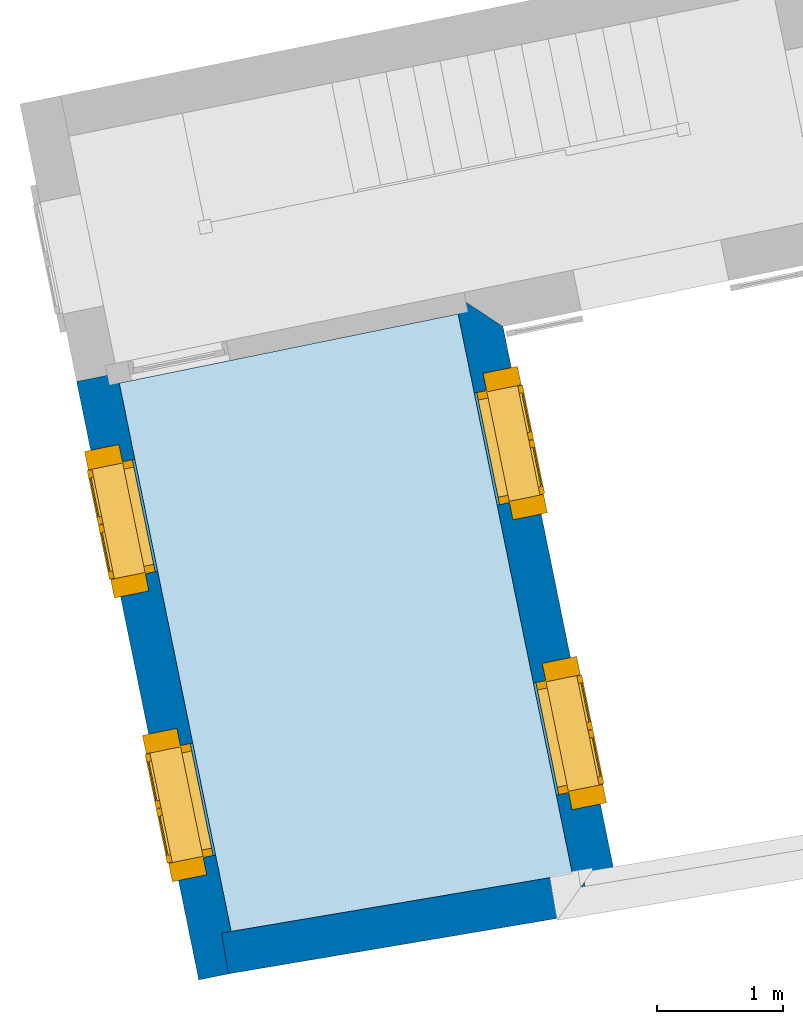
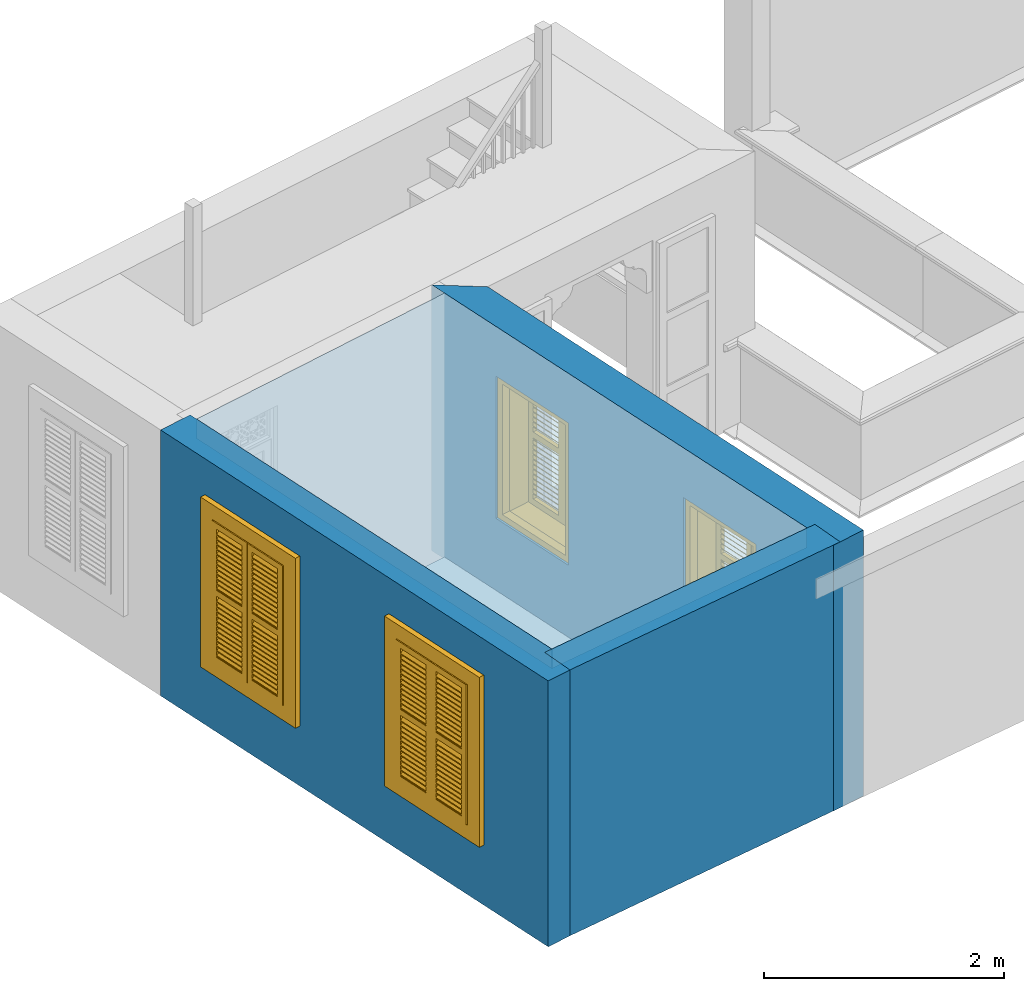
# One storey, part 1 of 7: 4 windows, 3 walls, 2 slabs, 4 openings.
"""IFC4 building model written with IfcOpenShell, lengths in metres."""

from ifc_helpers import new_model, si_unit, frame, origin, origin_with_axes, place, context, subcontext, project, spatial, polyline, outline, extrude, faceted_brep, source, transform, mapped, material, layer, layer_set, layer_usage, type_object, type_shapes, element, fill, save


model = new_model("IFC4")

# Units and contexts
model_context = context("Model", 3, world=origin_with_axes())
body_context = subcontext(model_context, "Body", "Model", "MODEL_VIEW")
ifc_project = project(units=[si_unit("PLANEANGLEUNIT", "RADIAN"), si_unit("MASSUNIT", "GRAM", prefix="KILO"), si_unit("FORCEUNIT", "NEWTON", prefix="KILO"), si_unit("LENGTHUNIT", "METRE"), si_unit("AREAUNIT", "SQUARE_METRE"), si_unit("VOLUMEUNIT", "CUBIC_METRE")], contexts=[model_context, model_context])

# Site, building, storey
site_placement = place(None, origin_with_axes())
site = spatial("IfcSite", under=ifc_project, at=site_placement, Name="Site plot-7", CompositionType="ELEMENT")
building_placement = place(None, origin_with_axes())
building = spatial("IfcBuilding", under=site, at=building_placement, Name="Building plot-7", CompositionType="ELEMENT")
storey_placement = place(None, frame((0.0, 0.0, 3.0), z_axis=(0.0, 0.0, 1.0), x_axis=(1.0, 0.0, 0.0)))
storey = spatial("IfcBuildingStorey", under=building, at=storey_placement, Name="plot-7 1", CompositionType="ELEMENT", Elevation=3.0)

# Slabs
slab_1_placement = place(storey_placement, frame((-9.15748605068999, 9.49645441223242, 2.5)))
element("IfcSlab", 1, at=slab_1_placement, inside=storey, Name="My Slab", ObjectType="Slab", PredefinedType="FLOOR", context=body_context, shape_type="SweptSolid", body=[
    extrude(outline(polyline([(0.0, 0.0), (-2.69864684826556, -0.550696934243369), (-1.80760958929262, -4.9171546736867), (0.90989582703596, -4.45887266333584), (0.0, 0.0)])), origin_with_axes(), (0.0, 0.0, 1.0), 0.2),
])
slab_2_placement = place(storey_placement, frame((-9.15748605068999, 9.49645441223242, 0.0)))
element("IfcSlab", 2, at=slab_2_placement, inside=storey, Name="My Slab", ObjectType="Slab", PredefinedType="FLOOR", context=body_context, shape_type="SweptSolid", body=[
    extrude(outline(polyline([(0.0, 0.0), (-2.69864684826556, -0.550696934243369), (-1.80760958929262, -4.9171546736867), (0.90989582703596, -4.45887266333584), (0.0, 0.0)])), origin_with_axes(), (0.0, 0.0, 1.0), 0.02),
])

# Wall, openings, windows
ifc_material_1 = material(Name="Masonry")
ifc_layer_1 = layer(ifc_material_1, 0.33, ventilated=False)
ifc_layer_set_1 = layer_set([ifc_layer_1], Name="exterior_0.08_0.25")
ifc_layer_usage_1 = layer_usage(ifc_layer_set_1, "AXIS2", "POSITIVE", -0.25)
wall_type_1 = type_object("IfcWallType", Name="exterior_0.08_0.25", PredefinedType="SOLIDWALL", material=ifc_layer_set_1)
wall_1_placement = place(storey_placement, frame((-8.15265300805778, 4.97246241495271, 0.0), z_axis=(0.0, 0.0, 1.0), x_axis=(-0.199943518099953, 0.979807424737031, 0.0)))
wall_1 = element("IfcWall", 3, at=wall_1_placement, inside=storey, type_object=wall_type_1, material=ifc_layer_usage_1, Name="exterior", context=body_context, shape_type="SweptSolid", body=[
    extrude(outline(polyline([(-0.25, 0.0800000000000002), (-0.25, -0.25), (4.46355080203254, -0.250000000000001), (4.79355080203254, 0.0799999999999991), (-0.25, 0.0800000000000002)])), origin_with_axes(), (0.0, 0.0, 1.0), 2.7),
])
opening_1_placement = place(wall_1_placement, frame((0.723387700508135, 0.0, 0.75)))
opening_1 = element("IfcOpeningElement", 4, at=opening_1_placement, cuts=wall_1, Name="My Opening", ObjectType="Opening", context=body_context, shape_type="SweptSolid", body=[
    extrude(outline(polyline([(0.0, -0.269999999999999), (0.91, -0.27), (0.910000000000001, 1.1), (5.55111512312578e-16, 1.1), (0.0, -0.269999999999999)])), origin_with_axes(), (0.0, 0.0, 1.0), 1.445),
])
opening_2_placement = place(wall_1_placement, frame((3.0801631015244, 0.0, 0.75)))
opening_2 = element("IfcOpeningElement", 5, at=opening_2_placement, cuts=wall_1, Name="My Opening", ObjectType="Opening", context=body_context, shape_type="SweptSolid", body=[
    extrude(outline(polyline([(0.0, -0.269999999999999), (0.910000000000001, -0.27), (0.910000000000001, 1.1), (1.33226762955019e-15, 1.1), (0.0, -0.269999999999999)])), origin_with_axes(), (0.0, 0.0, 1.0), 1.445),
])
window_type = type_object("IfcWindowType", Name="shuttered_shorter", PartitioningType="DOUBLE_PANEL_HORIZONTAL", PredefinedType="NOTDEFINED")
shared_shape = source(origin(), body_context, "Body", "Brep", [
    faceted_brep([(0.393, 0.0, 0.622), (0.074, 0.0, 0.622), (0.074, 0.0, 0.632), (0.393, 0.0, 0.632), (0.074, -0.04, 0.592), (0.393, -0.04, 0.592), (0.393, -0.04, 0.582), (0.074, -0.04, 0.582), (0.517, 0.0, 0.682), (0.836, 0.0, 0.682), (0.836, 0.0, 0.672), (0.517, 0.0, 0.672), (0.517, -0.04, 0.642), (0.836, -0.04, 0.642), (0.836, -0.04, 0.632), (0.517, -0.04, 0.632), (0.517, 0.0, 0.632), (0.836, 0.0, 0.632), (0.836, 0.0, 0.622), (0.517, 0.0, 0.622), (0.517, -0.04, 0.592), (0.836, -0.04, 0.592), (0.836, -0.04, 0.582), (0.517, -0.04, 0.582), (0.517, 0.0, 0.232), (0.836, 0.0, 0.232), (0.836, 0.0, 0.222), (0.517, 0.0, 0.222), (0.517, -0.04, 0.192), (0.836, -0.04, 0.192), (0.836, -0.04, 0.182), (0.517, -0.04, 0.182), (0.517, 0.0, 0.532), (0.836, 0.0, 0.532), (0.836, 0.0, 0.522), (0.517, 0.0, 0.522), (0.517, -0.04, 0.492), (0.836, -0.04, 0.492), (0.836, -0.04, 0.482), (0.517, -0.04, 0.482), (0.517, 0.0, 0.482), (0.836, 0.0, 0.482), (0.836, 0.0, 0.472), (0.517, 0.0, 0.472), (0.517, -0.04, 0.442), (0.836, -0.04, 0.442), (0.836, -0.04, 0.432), (0.517, -0.04, 0.432), (0.517, 0.0, 0.582), (0.836, 0.0, 0.582), (0.836, 0.0, 0.572), (0.517, 0.0, 0.572), (0.517, -0.04, 0.542), (0.836, -0.04, 0.542), (0.836, -0.04, 0.532), (0.517, -0.04, 0.532), (0.517, 0.0, 0.182), (0.836, 0.0, 0.182), (0.836, 0.0, 0.172), (0.517, 0.0, 0.172), (0.517, -0.04, 0.142), (0.836, -0.04, 0.142), (0.836, -0.04, 0.132), (0.517, -0.04, 0.132), (0.517, 0.0, 0.382), (0.836, 0.0, 0.382), (0.836, 0.0, 0.372), (0.517, 0.0, 0.372), (0.517, -0.04, 0.342), (0.836, -0.04, 0.342), (0.836, -0.04, 0.332), (0.517, -0.04, 0.332), (0.517, 0.0, 0.432), (0.836, 0.0, 0.432), (0.836, 0.0, 0.422), (0.517, 0.0, 0.422), (0.517, -0.04, 0.392), (0.836, -0.04, 0.392), (0.836, -0.04, 0.382), (0.517, -0.04, 0.382), (0.517, 0.0, 0.132), (0.836, 0.0, 0.132), (0.836, 0.0, 0.122), (0.517, 0.0, 0.122), (0.517, -0.04, 0.092), (0.836, -0.04, 0.092), (0.836, -0.04, 0.082), (0.517, -0.04, 0.082), (0.517, 0.0, 0.282), (0.836, 0.0, 0.282), (0.836, 0.0, 0.272), (0.517, 0.0, 0.272), (0.517, -0.04, 0.242), (0.836, -0.04, 0.242), (0.836, -0.04, 0.232), (0.517, -0.04, 0.232), (0.517, 0.0, 0.332), (0.836, 0.0, 0.332), (0.836, 0.0, 0.322), (0.517, 0.0, 0.322), (0.517, -0.04, 0.292), (0.836, -0.04, 0.292), (0.836, -0.04, 0.282), (0.517, -0.04, 0.282), (0.517, 0.0, 1.362667), (0.836, 0.0, 1.362667), (0.836, 0.0, 1.352667), (0.517, 0.0, 1.352667), (0.517, -0.04, 1.322667), (0.836, -0.04, 1.322667), (0.836, -0.04, 1.312667), (0.517, -0.04, 1.312667), (0.517, 0.0, 1.312667), (0.836, 0.0, 1.312667), (0.836, 0.0, 1.302667), (0.517, 0.0, 1.302667), (0.517, -0.04, 1.272667), (0.836, -0.04, 1.272667), (0.836, -0.04, 1.262667), (0.517, -0.04, 1.262667), (0.517, 0.0, 0.912667), (0.836, 0.0, 0.912667), (0.836, 0.0, 0.902667), (0.517, 0.0, 0.902667), (0.517, -0.04, 0.872667), (0.836, -0.04, 0.872667), (0.836, -0.04, 0.862667), (0.517, -0.04, 0.862667), (0.517, 0.0, 1.212667), (0.836, 0.0, 1.212667), (0.836, 0.0, 1.202667), (0.517, 0.0, 1.202667), (0.517, -0.04, 1.172667), (0.836, -0.04, 1.172667), (0.836, -0.04, 1.162667), (0.517, -0.04, 1.162667), (0.517, 0.0, 1.162667), (0.836, 0.0, 1.162667), (0.836, 0.0, 1.152667), (0.517, 0.0, 1.152667), (0.517, -0.04, 1.122667), (0.836, -0.04, 1.122667), (0.836, -0.04, 1.112667), (0.517, -0.04, 1.112667), (0.517, 0.0, 1.262667), (0.836, 0.0, 1.262667), (0.836, 0.0, 1.252667), (0.517, 0.0, 1.252667), (0.517, -0.04, 1.222667), (0.836, -0.04, 1.222667), (0.836, -0.04, 1.212667), (0.517, -0.04, 1.212667), (0.517, 0.0, 0.862667), (0.836, 0.0, 0.862667), (0.836, 0.0, 0.852667), (0.517, 0.0, 0.852667), (0.517, -0.04, 0.822667), (0.836, -0.04, 0.822667), (0.836, -0.04, 0.812667), (0.517, -0.04, 0.812667), (0.517, 0.0, 1.062667), (0.836, 0.0, 1.062667), (0.836, 0.0, 1.052667), (0.517, 0.0, 1.052667), (0.517, -0.04, 1.022667), (0.836, -0.04, 1.022667), (0.836, -0.04, 1.012667), (0.517, -0.04, 1.012667), (0.517, 0.0, 1.112667), (0.836, 0.0, 1.112667), (0.836, 0.0, 1.102667), (0.517, 0.0, 1.102667), (0.517, -0.04, 1.072667), (0.836, -0.04, 1.072667), (0.836, -0.04, 1.062667), (0.517, -0.04, 1.062667), (0.517, 0.0, 0.812667), (0.836, 0.0, 0.812667), (0.836, 0.0, 0.802667), (0.517, 0.0, 0.802667), (0.517, -0.04, 0.772667), (0.836, -0.04, 0.772667), (0.836, -0.04, 0.762667), (0.517, -0.04, 0.762667), (0.517, 0.0, 0.962667), (0.836, 0.0, 0.962667), (0.836, 0.0, 0.952667), (0.517, 0.0, 0.952667), (0.517, -0.04, 0.922667), (0.836, -0.04, 0.922667), (0.836, -0.04, 0.912667), (0.517, -0.04, 0.912667), (0.517, 0.0, 1.012667), (0.836, 0.0, 1.012667), (0.836, 0.0, 1.002667), (0.517, 0.0, 1.002667), (0.517, -0.04, 0.972667), (0.836, -0.04, 0.972667), (0.836, -0.04, 0.962667), (0.517, -0.04, 0.962667), (0.074, 0.0, 0.682), (0.393, 0.0, 0.682), (0.393, 0.0, 0.672), (0.074, 0.0, 0.672), (0.074, -0.04, 0.642), (0.393, -0.04, 0.642), (0.393, -0.04, 0.632), (0.074, -0.04, 0.632), (0.074, 0.0, 0.232), (0.393, 0.0, 0.232), (0.393, 0.0, 0.222), (0.074, 0.0, 0.222), (0.074, -0.04, 0.192), (0.393, -0.04, 0.192), (0.393, -0.04, 0.182), (0.074, -0.04, 0.182), (0.074, 0.0, 0.532), (0.393, 0.0, 0.532), (0.393, 0.0, 0.522), (0.074, 0.0, 0.522), (0.074, -0.04, 0.492), (0.393, -0.04, 0.492), (0.393, -0.04, 0.482), (0.074, -0.04, 0.482), (0.074, 0.0, 0.482), (0.393, 0.0, 0.482), (0.393, 0.0, 0.472), (0.074, 0.0, 0.472), (0.074, -0.04, 0.442), (0.393, -0.04, 0.442), (0.393, -0.04, 0.432), (0.074, -0.04, 0.432), (0.074, 0.0, 0.582), (0.393, 0.0, 0.582), (0.393, 0.0, 0.572), (0.074, 0.0, 0.572), (0.074, -0.04, 0.542), (0.393, -0.04, 0.542), (0.393, -0.04, 0.532), (0.074, -0.04, 0.532), (0.074, 0.0, 0.182), (0.393, 0.0, 0.182), (0.393, 0.0, 0.172), (0.074, 0.0, 0.172), (0.074, -0.04, 0.142), (0.393, -0.04, 0.142), (0.393, -0.04, 0.132), (0.074, -0.04, 0.132), (0.074, 0.0, 0.382), (0.393, 0.0, 0.382), (0.393, 0.0, 0.372), (0.074, 0.0, 0.372), (0.074, -0.04, 0.342), (0.393, -0.04, 0.342), (0.393, -0.04, 0.332), (0.074, -0.04, 0.332), (0.074, 0.0, 0.432), (0.393, 0.0, 0.432), (0.393, 0.0, 0.422), (0.074, 0.0, 0.422), (0.074, -0.04, 0.392), (0.393, -0.04, 0.392), (0.393, -0.04, 0.382), (0.074, -0.04, 0.382), (0.074, 0.0, 0.132), (0.393, 0.0, 0.132), (0.393, 0.0, 0.122), (0.074, 0.0, 0.122), (0.074, -0.04, 0.092), (0.393, -0.04, 0.092), (0.393, -0.04, 0.082), (0.074, -0.04, 0.082), (0.074, 0.0, 0.282), (0.393, 0.0, 0.282), (0.393, 0.0, 0.272), (0.074, 0.0, 0.272), (0.074, -0.04, 0.242), (0.393, -0.04, 0.242), (0.393, -0.04, 0.232), (0.074, -0.04, 0.232), (0.074, 0.0, 0.332), (0.393, 0.0, 0.332), (0.393, 0.0, 0.322), (0.074, 0.0, 0.322), (0.074, -0.04, 0.292), (0.393, -0.04, 0.292), (0.393, -0.04, 0.282), (0.074, -0.04, 0.282), (0.074, 0.0, 1.362667), (0.393, 0.0, 1.362667), (0.393, 0.0, 1.352667), (0.074, 0.0, 1.352667), (0.074, -0.04, 1.322667), (0.393, -0.04, 1.322667), (0.393, -0.04, 1.312667), (0.074, -0.04, 1.312667), (0.074, 0.0, 1.312667), (0.393, 0.0, 1.312667), (0.393, 0.0, 1.302667), (0.074, 0.0, 1.302667), (0.074, -0.04, 1.272667), (0.393, -0.04, 1.272667), (0.393, -0.04, 1.262667), (0.074, -0.04, 1.262667), (0.074, 0.0, 0.912667), (0.393, 0.0, 0.912667), (0.393, 0.0, 0.902667), (0.074, 0.0, 0.902667), (0.074, -0.04, 0.872667), (0.393, -0.04, 0.872667), (0.393, -0.04, 0.862667), (0.074, -0.04, 0.862667), (0.074, 0.0, 1.212667), (0.393, 0.0, 1.212667), (0.393, 0.0, 1.202667), (0.074, 0.0, 1.202667), (0.074, -0.04, 1.172667), (0.393, -0.04, 1.172667), (0.393, -0.04, 1.162667), (0.074, -0.04, 1.162667), (0.074, 0.0, 1.162667), (0.393, 0.0, 1.162667), (0.393, 0.0, 1.152667), (0.074, 0.0, 1.152667), (0.074, -0.04, 1.122667), (0.393, -0.04, 1.122667), (0.393, -0.04, 1.112667), (0.074, -0.04, 1.112667), (0.074, 0.0, 1.262667), (0.393, 0.0, 1.262667), (0.393, 0.0, 1.252667), (0.074, 0.0, 1.252667), (0.074, -0.04, 1.222667), (0.393, -0.04, 1.222667), (0.393, -0.04, 1.212667), (0.074, -0.04, 1.212667), (0.074, 0.0, 0.862667), (0.393, 0.0, 0.862667), (0.393, 0.0, 0.852667), (0.074, 0.0, 0.852667), (0.074, -0.04, 0.822667), (0.393, -0.04, 0.822667), (0.393, -0.04, 0.812667), (0.074, -0.04, 0.812667), (0.074, 0.0, 1.062667), (0.393, 0.0, 1.062667), (0.393, 0.0, 1.052667), (0.074, 0.0, 1.052667), (0.074, -0.04, 1.022667), (0.393, -0.04, 1.022667), (0.393, -0.04, 1.012667), (0.074, -0.04, 1.012667), (0.074, 0.0, 1.112667), (0.393, 0.0, 1.112667), (0.393, 0.0, 1.102667), (0.074, 0.0, 1.102667), (0.074, -0.04, 1.072667), (0.393, -0.04, 1.072667), (0.393, -0.04, 1.062667), (0.074, -0.04, 1.062667), (0.074, 0.0, 0.812667), (0.393, 0.0, 0.812667), (0.393, 0.0, 0.802667), (0.074, 0.0, 0.802667), (0.074, -0.04, 0.772667), (0.393, -0.04, 0.772667), (0.393, -0.04, 0.762667), (0.074, -0.04, 0.762667), (0.074, 0.0, 0.962667), (0.393, 0.0, 0.962667), (0.393, 0.0, 0.952667), (0.074, 0.0, 0.952667), (0.074, -0.04, 0.922667), (0.393, -0.04, 0.922667), (0.393, -0.04, 0.912667), (0.074, -0.04, 0.912667), (0.074, 0.0, 1.012667), (0.393, 0.0, 1.012667), (0.393, 0.0, 1.002667), (0.074, 0.0, 1.002667), (0.074, -0.04, 0.972667), (0.393, -0.04, 0.972667), (0.393, -0.04, 0.962667), (0.074, -0.04, 0.962667), (0.517, -0.04, 0.072), (0.457, -0.04, 0.012), (0.896, -0.04, 0.012), (0.836, -0.04, 0.072), (0.457, -0.04, 0.692667), (0.517, -0.04, 0.692667), (0.457, 0.0, 0.012), (0.896, 0.0, 0.012), (0.836, -0.04, 0.692667), (0.896, -0.04, 0.692667), (0.836, 0.0, 0.072), (0.517, 0.0, 0.072), (0.457, 0.0, 0.692667), (0.517, 0.0, 0.692667), (0.517, -0.04, 0.752666), (0.457, -0.04, 0.752666), (0.896, 0.0, 0.692667), (0.836, 0.0, 0.692667), (0.836, -0.04, 0.752666), (0.896, -0.04, 0.752666), (0.457, 0.0, 0.752666), (0.457, -0.04, 1.433333), (0.517, -0.04, 1.373333), (0.896, 0.0, 0.752666), (0.836, -0.04, 1.373333), (0.896, -0.04, 1.433333), (0.457, 0.0, 1.433333), (0.517, 0.0, 0.752666), (0.836, 0.0, 0.752666), (0.517, 0.0, 1.373333), (0.896, 0.0, 1.433333), (0.836, 0.0, 1.373333), (0.074, -0.04, 0.072), (0.014, -0.04, 0.012), (0.453, -0.04, 0.012), (0.393, -0.04, 0.072), (0.014, -0.04, 0.692667), (0.074, -0.04, 0.692667), (0.014, 0.0, 0.012), (0.453, 0.0, 0.012), (0.393, -0.04, 0.692667), (0.453, -0.04, 0.692667), (0.393, 0.0, 0.072), (0.074, 0.0, 0.072), (0.014, 0.0, 0.692667), (0.074, 0.0, 0.692667), (0.074, -0.04, 0.752666), (0.014, -0.04, 0.752666), (0.453, 0.0, 0.692667), (0.393, 0.0, 0.692667), (0.393, -0.04, 0.752666), (0.453, -0.04, 0.752666), (0.014, 0.0, 0.752666), (0.014, -0.04, 1.433333), (0.074, -0.04, 1.373333), (0.453, 0.0, 0.752666), (0.393, -0.04, 1.373333), (0.453, -0.04, 1.433333), (0.014, 0.0, 1.433333), (0.074, 0.0, 0.752666), (0.393, 0.0, 0.752666), (0.074, 0.0, 1.373333), (0.453, 0.0, 1.433333), (0.393, 0.0, 1.373333), (0.0, 0.33, 1.445), (0.91, 0.33, 1.445), (0.85, 0.33, 1.385), (0.06, 0.33, 1.385), (0.91, 0.25, 1.445), (0.0, 0.25, 1.445), (0.91, 0.25, 1.445), (0.85, 0.33, 0.06), (0.91, 0.33, 0.0), (0.85, 0.25, 1.385), (0.06, 0.25, 1.385), (0.0, 0.33, 0.0), (0.06, 0.33, 0.06), (0.0, 0.25, 0.0), (0.91, 0.25, 0.0), (0.85, 0.25, 0.06), (0.06, 0.25, 0.06), (1.05, 0.25, 1.585), (-0.14, 0.25, 1.585), (-0.14, -0.03, 1.585), (1.05, -0.03, 1.585), (0.9, -0.03, 1.435), (0.01, -0.03, 1.435), (0.01, 0.25, 1.435), (0.9, 0.25, 1.435), (0.9, 0.25, 0.01), (0.9, -0.03, 0.01), (1.05, -0.03, -0.14), (1.05, 0.25, -0.14), (0.01, -0.03, 0.01), (0.01, 0.25, 0.01), (-0.14, -0.03, -0.14), (-0.14, 0.25, -0.14)], [[[0, 1, 2, 3]], [[4, 5, 3, 2]], [[5, 6, 0, 3]], [[1, 0, 6, 7]], [[2, 1, 7, 4]], [[5, 4, 7, 6]], [[8, 9, 10, 11]], [[12, 13, 9, 8]], [[13, 14, 10, 9]], [[14, 15, 11, 10]], [[15, 12, 8, 11]], [[13, 12, 15, 14]], [[16, 17, 18, 19]], [[20, 21, 17, 16]], [[21, 22, 18, 17]], [[22, 23, 19, 18]], [[23, 20, 16, 19]], [[21, 20, 23, 22]], [[24, 25, 26, 27]], [[28, 29, 25, 24]], [[29, 30, 26, 25]], [[30, 31, 27, 26]], [[31, 28, 24, 27]], [[29, 28, 31, 30]], [[32, 33, 34, 35]], [[36, 37, 33, 32]], [[37, 38, 34, 33]], [[38, 39, 35, 34]], [[39, 36, 32, 35]], [[37, 36, 39, 38]], [[40, 41, 42, 43]], [[44, 45, 41, 40]], [[45, 46, 42, 41]], [[46, 47, 43, 42]], [[47, 44, 40, 43]], [[45, 44, 47, 46]], [[48, 49, 50, 51]], [[52, 53, 49, 48]], [[53, 54, 50, 49]], [[54, 55, 51, 50]], [[55, 52, 48, 51]], [[53, 52, 55, 54]], [[56, 57, 58, 59]], [[60, 61, 57, 56]], [[61, 62, 58, 57]], [[62, 63, 59, 58]], [[63, 60, 56, 59]], [[61, 60, 63, 62]], [[64, 65, 66, 67]], [[68, 69, 65, 64]], [[69, 70, 66, 65]], [[70, 71, 67, 66]], [[71, 68, 64, 67]], [[69, 68, 71, 70]], [[72, 73, 74, 75]], [[76, 77, 73, 72]], [[77, 78, 74, 73]], [[78, 79, 75, 74]], [[79, 76, 72, 75]], [[77, 76, 79, 78]], [[80, 81, 82, 83]], [[84, 85, 81, 80]], [[85, 86, 82, 81]], [[86, 87, 83, 82]], [[87, 84, 80, 83]], [[85, 84, 87, 86]], [[88, 89, 90, 91]], [[92, 93, 89, 88]], [[93, 94, 90, 89]], [[94, 95, 91, 90]], [[95, 92, 88, 91]], [[93, 92, 95, 94]], [[96, 97, 98, 99]], [[100, 101, 97, 96]], [[101, 102, 98, 97]], [[102, 103, 99, 98]], [[103, 100, 96, 99]], [[101, 100, 103, 102]], [[104, 105, 106, 107]], [[108, 109, 105, 104]], [[109, 110, 106, 105]], [[110, 111, 107, 106]], [[111, 108, 104, 107]], [[109, 108, 111, 110]], [[112, 113, 114, 115]], [[116, 117, 113, 112]], [[117, 118, 114, 113]], [[118, 119, 115, 114]], [[119, 116, 112, 115]], [[117, 116, 119, 118]], [[120, 121, 122, 123]], [[124, 125, 121, 120]], [[125, 126, 122, 121]], [[126, 127, 123, 122]], [[127, 124, 120, 123]], [[125, 124, 127, 126]], [[128, 129, 130, 131]], [[132, 133, 129, 128]], [[133, 134, 130, 129]], [[134, 135, 131, 130]], [[135, 132, 128, 131]], [[133, 132, 135, 134]], [[136, 137, 138, 139]], [[140, 141, 137, 136]], [[141, 142, 138, 137]], [[142, 143, 139, 138]], [[139, 143, 140, 136]], [[141, 140, 143, 142]], [[144, 145, 146, 147]], [[148, 149, 145, 144]], [[149, 150, 146, 145]], [[150, 151, 147, 146]], [[151, 148, 144, 147]], [[149, 148, 151, 150]], [[152, 153, 154, 155]], [[156, 157, 153, 152]], [[157, 158, 154, 153]], [[158, 159, 155, 154]], [[159, 156, 152, 155]], [[157, 156, 159, 158]], [[160, 161, 162, 163]], [[164, 165, 161, 160]], [[165, 166, 162, 161]], [[166, 167, 163, 162]], [[167, 164, 160, 163]], [[165, 164, 167, 166]], [[168, 169, 170, 171]], [[172, 173, 169, 168]], [[173, 174, 170, 169]], [[174, 175, 171, 170]], [[175, 172, 168, 171]], [[173, 172, 175, 174]], [[176, 177, 178, 179]], [[180, 181, 177, 176]], [[181, 182, 178, 177]], [[182, 183, 179, 178]], [[183, 180, 176, 179]], [[181, 180, 183, 182]], [[184, 185, 186, 187]], [[188, 189, 185, 184]], [[189, 190, 186, 185]], [[190, 191, 187, 186]], [[191, 188, 184, 187]], [[189, 188, 191, 190]], [[192, 193, 194, 195]], [[196, 197, 193, 192]], [[197, 198, 194, 193]], [[198, 199, 195, 194]], [[199, 196, 192, 195]], [[197, 196, 199, 198]], [[200, 201, 202, 203]], [[204, 205, 201, 200]], [[205, 206, 202, 201]], [[206, 207, 203, 202]], [[207, 204, 200, 203]], [[205, 204, 207, 206]], [[208, 209, 210, 211]], [[212, 213, 209, 208]], [[213, 214, 210, 209]], [[214, 215, 211, 210]], [[215, 212, 208, 211]], [[213, 212, 215, 214]], [[216, 217, 218, 219]], [[220, 221, 217, 216]], [[221, 222, 218, 217]], [[222, 223, 219, 218]], [[223, 220, 216, 219]], [[221, 220, 223, 222]], [[224, 225, 226, 227]], [[228, 229, 225, 224]], [[229, 230, 226, 225]], [[230, 231, 227, 226]], [[231, 228, 224, 227]], [[229, 228, 231, 230]], [[232, 233, 234, 235]], [[236, 237, 233, 232]], [[237, 238, 234, 233]], [[238, 239, 235, 234]], [[239, 236, 232, 235]], [[237, 236, 239, 238]], [[240, 241, 242, 243]], [[244, 245, 241, 240]], [[245, 246, 242, 241]], [[246, 247, 243, 242]], [[247, 244, 240, 243]], [[245, 244, 247, 246]], [[248, 249, 250, 251]], [[252, 253, 249, 248]], [[253, 254, 250, 249]], [[254, 255, 251, 250]], [[255, 252, 248, 251]], [[253, 252, 255, 254]], [[256, 257, 258, 259]], [[260, 261, 257, 256]], [[261, 262, 258, 257]], [[262, 263, 259, 258]], [[263, 260, 256, 259]], [[261, 260, 263, 262]], [[264, 265, 266, 267]], [[268, 269, 265, 264]], [[269, 270, 266, 265]], [[270, 271, 267, 266]], [[271, 268, 264, 267]], [[269, 268, 271, 270]], [[272, 273, 274, 275]], [[276, 277, 273, 272]], [[277, 278, 274, 273]], [[278, 279, 275, 274]], [[279, 276, 272, 275]], [[277, 276, 279, 278]], [[280, 281, 282, 283]], [[284, 285, 281, 280]], [[285, 286, 282, 281]], [[286, 287, 283, 282]], [[287, 284, 280, 283]], [[285, 284, 287, 286]], [[288, 289, 290, 291]], [[292, 293, 289, 288]], [[293, 294, 290, 289]], [[294, 295, 291, 290]], [[295, 292, 288, 291]], [[293, 292, 295, 294]], [[296, 297, 298, 299]], [[300, 301, 297, 296]], [[301, 302, 298, 297]], [[302, 303, 299, 298]], [[303, 300, 296, 299]], [[301, 300, 303, 302]], [[304, 305, 306, 307]], [[308, 309, 305, 304]], [[309, 310, 306, 305]], [[310, 311, 307, 306]], [[311, 308, 304, 307]], [[309, 308, 311, 310]], [[312, 313, 314, 315]], [[316, 317, 313, 312]], [[317, 318, 314, 313]], [[318, 319, 315, 314]], [[319, 316, 312, 315]], [[317, 316, 319, 318]], [[320, 321, 322, 323]], [[324, 325, 321, 320]], [[325, 326, 322, 321]], [[326, 327, 323, 322]], [[327, 324, 320, 323]], [[325, 324, 327, 326]], [[328, 329, 330, 331]], [[332, 333, 329, 328]], [[333, 334, 330, 329]], [[334, 335, 331, 330]], [[335, 332, 328, 331]], [[333, 332, 335, 334]], [[336, 337, 338, 339]], [[340, 341, 337, 336]], [[341, 342, 338, 337]], [[342, 343, 339, 338]], [[343, 340, 336, 339]], [[341, 340, 343, 342]], [[344, 345, 346, 347]], [[348, 349, 345, 344]], [[349, 350, 346, 345]], [[350, 351, 347, 346]], [[351, 348, 344, 347]], [[349, 348, 351, 350]], [[352, 353, 354, 355]], [[356, 357, 353, 352]], [[357, 358, 354, 353]], [[358, 359, 355, 354]], [[359, 356, 352, 355]], [[357, 356, 359, 358]], [[360, 361, 362, 363]], [[364, 365, 361, 360]], [[365, 366, 362, 361]], [[366, 367, 363, 362]], [[367, 364, 360, 363]], [[365, 364, 367, 366]], [[368, 369, 370, 371]], [[372, 373, 369, 368]], [[373, 374, 370, 369]], [[374, 375, 371, 370]], [[375, 372, 368, 371]], [[373, 372, 375, 374]], [[376, 377, 378, 379]], [[380, 381, 377, 376]], [[381, 382, 378, 377]], [[382, 383, 379, 378]], [[383, 380, 376, 379]], [[381, 380, 383, 382]], [[384, 385, 386, 387]], [[388, 385, 384, 389]], [[390, 391, 386, 385]], [[392, 387, 386, 393]], [[384, 387, 394, 395]], [[390, 385, 388, 396]], [[389, 384, 395, 397]], [[389, 398, 399, 388]], [[390, 395, 394, 391]], [[400, 393, 386, 391]], [[387, 392, 401, 394]], [[402, 392, 393, 403]], [[396, 388, 399, 404]], [[390, 396, 397, 395]], [[392, 389, 397, 401]], [[398, 389, 392, 402]], [[405, 399, 398, 406]], [[394, 401, 400, 391]], [[407, 403, 393, 400]], [[408, 402, 403, 409]], [[404, 399, 405, 410]], [[411, 397, 396, 404]], [[397, 411, 412, 401]], [[398, 402, 412, 411]], [[406, 398, 411, 413]], [[405, 406, 408, 409]], [[401, 412, 407, 400]], [[414, 409, 403, 407]], [[402, 408, 415, 412]], [[405, 409, 414, 410]], [[404, 410, 413, 411]], [[408, 406, 413, 415]], [[412, 415, 414, 407]], [[413, 410, 414, 415]], [[416, 417, 418, 419]], [[420, 417, 416, 421]], [[422, 423, 418, 417]], [[424, 419, 418, 425]], [[416, 419, 426, 427]], [[422, 417, 420, 428]], [[421, 416, 427, 429]], [[421, 430, 431, 420]], [[422, 427, 426, 423]], [[432, 425, 418, 423]], [[419, 424, 433, 426]], [[434, 424, 425, 435]], [[428, 420, 431, 436]], [[422, 428, 429, 427]], [[424, 421, 429, 433]], [[430, 421, 424, 434]], [[437, 431, 430, 438]], [[426, 433, 432, 423]], [[439, 435, 425, 432]], [[440, 434, 435, 441]], [[436, 431, 437, 442]], [[443, 429, 428, 436]], [[429, 443, 444, 433]], [[430, 434, 444, 443]], [[438, 430, 443, 445]], [[437, 438, 440, 441]], [[433, 444, 439, 432]], [[446, 441, 435, 439]], [[434, 440, 447, 444]], [[437, 441, 446, 442]], [[436, 442, 445, 443]], [[440, 438, 445, 447]], [[444, 447, 446, 439]], [[445, 442, 446, 447]], [[448, 449, 450, 451]], [[452, 449, 448]], [[448, 453, 454]], [[448, 454, 452]], [[455, 450, 449, 456]], [[451, 450, 457, 458]], [[459, 448, 451, 460]], [[448, 459, 461, 453]], [[454, 453, 458, 457]], [[462, 452, 454]], [[454, 457, 463]], [[454, 463, 462]], [[456, 449, 452, 462]], [[450, 455, 463, 457]], [[456, 459, 460, 455]], [[460, 451, 458, 464]], [[459, 456, 462, 461]], [[464, 458, 453, 461]], [[461, 462, 463, 464]], [[455, 460, 464, 463]], [[465, 466, 467, 468]], [[469, 470, 471, 472]], [[473, 474, 469, 472]], [[465, 468, 475, 476]], [[470, 477, 478, 471]], [[474, 473, 478, 477]], [[474, 477, 479, 475]], [[470, 467, 479, 477]], [[470, 469, 468, 467]], [[474, 475, 468, 469]], [[471, 478, 480, 466]], [[473, 472, 465, 476]], [[473, 476, 480, 478]], [[466, 465, 472, 471]], [[480, 476, 475, 479]], [[480, 479, 467, 466]]]),
])
type_shapes(window_type, [shared_shape])
window_1_placement = place(storey_placement, frame((-8.03274168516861, 5.73522780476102, 0.75), z_axis=(0.0, 0.0, 1.0), x_axis=(-0.181948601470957, 0.891624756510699, 0.0)))
window_1 = element("IfcWindow", 6, at=window_1_placement, inside=storey, type_object=window_type, Name="bedroom sahn window", OverallHeight=1.445, OverallWidth=0.91, context=body_context, shape_type="MappedRepresentation", body=[
    mapped(shared_shape, transform((0.0, 0.0, 0.0), scale=1.0)),
])
fill(opening_1, window_1)
window_2_placement = place(storey_placement, frame((-8.50396365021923, 8.04441384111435, 0.75), z_axis=(0.0, 0.0, 1.0), x_axis=(-0.181948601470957, 0.891624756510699, 0.0)))
window_2 = element("IfcWindow", 7, at=window_2_placement, inside=storey, type_object=window_type, Name="bedroom sahn window", OverallHeight=1.445, OverallWidth=0.91, context=body_context, shape_type="MappedRepresentation", body=[
    mapped(shared_shape, transform((0.0, 0.0, 0.0), scale=1.0)),
])
fill(opening_2, window_2)

wall_2_placement = place(storey_placement, frame((-11.9505129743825, 9.00814659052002, 0.0), z_axis=(0.0, 0.0, 1.0), x_axis=(0.199943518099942, -0.979807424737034, 0.0)))
wall_2 = element("IfcWall", 8, at=wall_2_placement, inside=storey, type_object=wall_type_1, material=ifc_layer_usage_1, Name="exterior", context=body_context, shape_type="SweptSolid", body=[
    extrude(outline(polyline([(-2.89056306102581e-15, 0.0799999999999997), (9.27994915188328e-15, -0.25), (4.86375213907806, -0.25), (4.86375213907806, 0.0800000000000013), (-2.89056306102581e-15, 0.0799999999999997)])), origin_with_axes(), (0.0, 0.0, 1.0), 2.7),
])
opening_3_placement = place(wall_2_placement, frame((0.698438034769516, 0.0, 0.75)))
opening_3 = element("IfcOpeningElement", 9, at=opening_3_placement, cuts=wall_2, Name="My Opening", ObjectType="Opening", context=body_context, shape_type="SweptSolid", body=[
    extrude(outline(polyline([(0.0, -0.270000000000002), (0.91, -0.270000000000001), (0.91, 1.1), (-1.4432899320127e-15, 1.1), (0.0, -0.270000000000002)])), origin_with_axes(), (0.0, 0.0, 1.0), 1.445),
])
opening_4_placement = place(wall_2_placement, frame((3.00531410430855, 0.0, 0.75)))
opening_4 = element("IfcOpeningElement", 10, at=opening_4_placement, cuts=wall_2, Name="My Opening", ObjectType="Opening", context=body_context, shape_type="SweptSolid", body=[
    extrude(outline(polyline([(0.0, -0.270000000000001), (0.91, -0.27), (0.910000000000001, 1.1), (4.44089209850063e-16, 1.1), (0.0, -0.270000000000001)])), origin_with_axes(), (0.0, 0.0, 1.0), 1.445),
])
window_3_placement = place(storey_placement, frame((-12.0754128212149, 8.26982706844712, 0.75), z_axis=(0.0, 0.0, 1.0), x_axis=(0.181948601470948, -0.891624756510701, 0.0)))
window_3 = element("IfcWindow", 11, at=window_3_placement, inside=storey, type_object=window_type, Name="bedroom outside window", OverallHeight=1.445, OverallWidth=0.91, context=body_context, shape_type="MappedRepresentation", body=[
    mapped(shared_shape, transform((0.0, 0.0, 0.0), scale=1.0)),
])
fill(opening_3, window_3)
window_4_placement = place(storey_placement, frame((-11.6141679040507, 6.00953276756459, 0.75), z_axis=(0.0, 0.0, 1.0), x_axis=(0.181948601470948, -0.891624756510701, 0.0)))
window_4 = element("IfcWindow", 12, at=window_4_placement, inside=storey, type_object=window_type, Name="bedroom outside window", OverallHeight=1.445, OverallWidth=0.91, context=body_context, shape_type="MappedRepresentation", body=[
    mapped(shared_shape, transform((0.0, 0.0, 0.0), scale=1.0)),
])
fill(opening_4, window_4)

# Wall
ifc_material_2 = material(Name="Masonry")
ifc_layer_2 = layer(ifc_material_2, 0.33, ventilated=False)
ifc_layer_set_2 = layer_set([ifc_layer_2], Name="party_0.08_0.25")
ifc_layer_usage_2 = layer_usage(ifc_layer_set_2, "AXIS2", "POSITIVE", -0.25)
wall_type_2 = type_object("IfcWallType", Name="party_0.08_0.25", PredefinedType="SOLIDWALL", material=ifc_layer_set_2)
wall_3_placement = place(storey_placement, frame((-11.0280231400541, 4.48755798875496, 0.0), z_axis=(0.0, 0.0, 1.0), x_axis=(0.986076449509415, 0.166292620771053, 0.0)))
element("IfcWall", 13, at=wall_3_placement, inside=storey, type_object=wall_type_2, material=ifc_layer_usage_2, Name="party", context=body_context, shape_type="SweptSolid", body=[
    extrude(outline(polyline([(-2.97082075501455e-16, 0.0800000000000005), (-9.57142174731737e-17, -0.25), (2.91597079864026, -0.25), (2.91597079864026, 0.0800000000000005), (-2.97082075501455e-16, 0.0800000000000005)])), origin_with_axes(), (0.0, 0.0, 1.0), 2.7),
])

save(model, "model.ifc")
